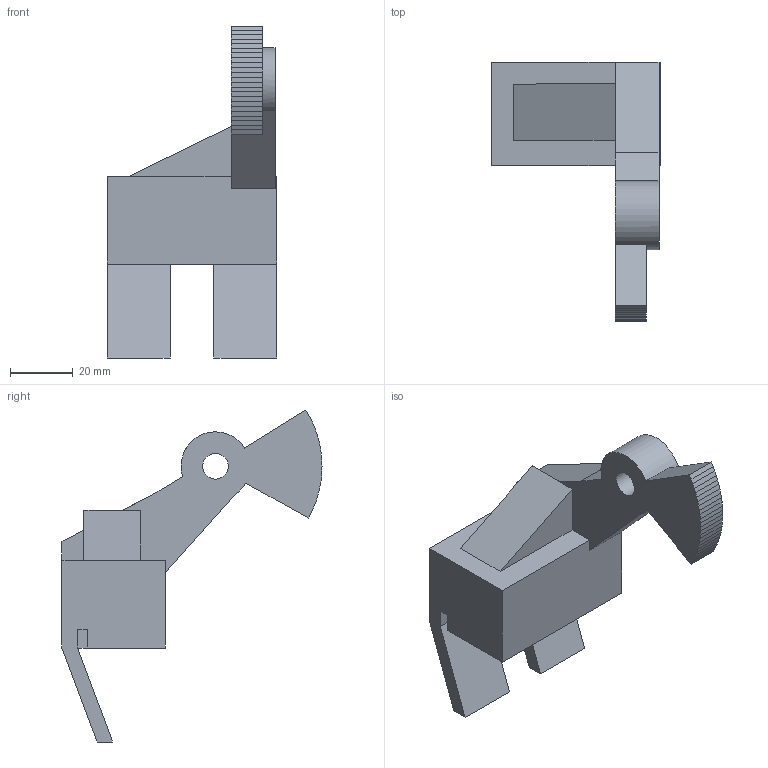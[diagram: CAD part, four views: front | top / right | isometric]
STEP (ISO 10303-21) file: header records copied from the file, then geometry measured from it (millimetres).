
FILE_DESCRIPTION(('Open CASCADE Model'),'2;1');
FILE_NAME('Open CASCADE Shape Model','2026-10-16T00:30:56',('Author'),( 'Open CASCADE'),'Open CASCADE STEP processor 7.9','Open CASCADE 7.9' ,'Unknown');
FILE_SCHEMA(('AUTOMOTIVE_DESIGN { 1 0 10303 214 1 1 1 1 }'));
Length unit declared in the file: millimetre
Products named in the file (1): Open CASCADE STEP translator 7.9 26
Bounding box: 54 x 83 x 105.98 mm (x, y, z)
Volume: 71903.1 mm3; surface area: 20575.8 mm2
Topology: 1 solids, 1 shells, 77 faces, 221 edges, 144 vertices
Faces by surface type: plane 75, cylinder 2
Full cylindrical faces by diameter (mm): 8.2 x1
Entity records: 5362 total; most frequent: CARTESIAN_POINT 897, DIRECTION 823, LINE 651, VECTOR 651, ORIENTED_EDGE 442, PCURVE 442, DEFINITIONAL_REPRESENTATION 442, EDGE_CURVE 221
